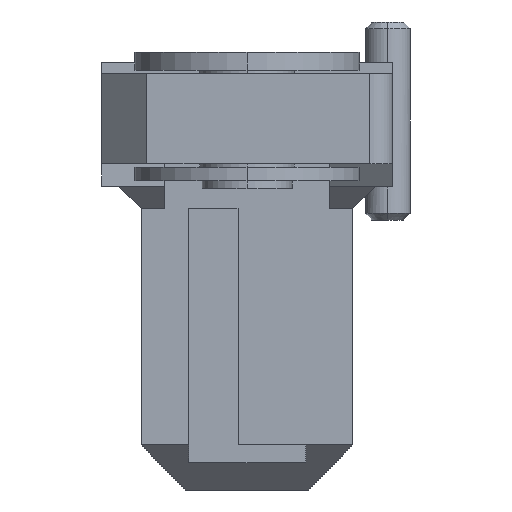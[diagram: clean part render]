
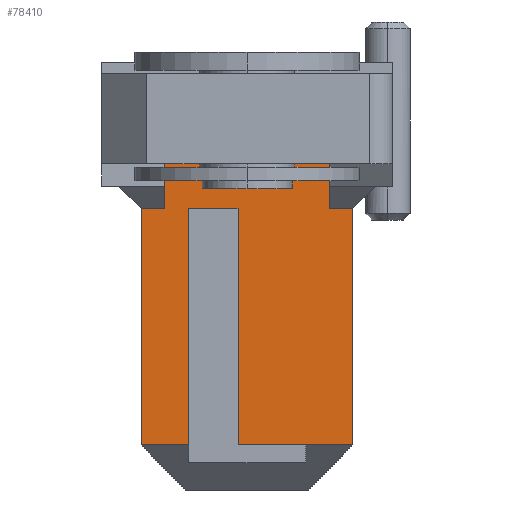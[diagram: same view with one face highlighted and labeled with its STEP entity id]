
A CAD part, left-side view. The second image highlights one B-rep face of the part: STEP entity #78410.
In plain terms, the highlighted planar face has unit normal (-1, 0, 0).
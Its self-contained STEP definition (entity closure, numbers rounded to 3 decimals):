
#77300=CARTESIAN_POINT('',(8.222,-3.386,-19.));
#77310=DIRECTION('',(-1.,0.,0.));
#77320=DIRECTION('',(0.,-1.,0.));
#77330=AXIS2_PLACEMENT_3D('',#77300,#77310,#77320);
#77340=PLANE('',#77330);
#77350=CARTESIAN_POINT('',(8.222,3.914,0.));
#77360=DIRECTION('',(0.,0.,1.));
#77370=VECTOR('',#77360,1.);
#77380=LINE('',#77350,#77370);
#77390=CARTESIAN_POINT('',(8.222,3.914,-17.));
#77400=VERTEX_POINT('',#77390);
#77410=CARTESIAN_POINT('',(8.222,3.914,
-6.5));
#77420=VERTEX_POINT('',#77410);
#77430=EDGE_CURVE('',#77400,#77420,#77380,.T.);
#77440=ORIENTED_EDGE('',*,*,#77430,.T.);
#77450=CARTESIAN_POINT('',(8.222,0.,-17.))
;
#77460=DIRECTION('',(0.,-1.,0.));
#77470=VECTOR('',#77460,1.);
#77480=LINE('',#77450,#77470);
#77490=CARTESIAN_POINT('',(8.222,6.014,-17.));
#77500=VERTEX_POINT('',#77490);
#77510=EDGE_CURVE('',#77500,#77400,#77480,.T.);
#77520=ORIENTED_EDGE('',*,*,#77510,.T.);
#77530=CARTESIAN_POINT('',(8.222,6.014,0.));
#77540=DIRECTION('',(0.,0.,1.));
#77550=VECTOR('',#77540,1.);
#77560=LINE('',#77530,#77550);
#77570=CARTESIAN_POINT('',(8.222,6.014,
-6.5));
#77580=VERTEX_POINT('',#77570);
#77590=EDGE_CURVE('',#77500,#77580,#77560,.T.);
#77600=ORIENTED_EDGE('',*,*,#77590,.F.);
#77610=CARTESIAN_POINT('',(8.222,5.989,
-6.5));
#77620=DIRECTION('',(0.,1.,0.));
#77630=VECTOR('',#77620,1.);
#77640=LINE('',#77610,#77630);
#77650=CARTESIAN_POINT('',(8.222,4.964,
-6.5));
#77660=VERTEX_POINT('',#77650);
#77670=EDGE_CURVE('',#77660,#77580,#77640,.T.);
#77680=ORIENTED_EDGE('',*,*,#77670,.T.);
#77690=CARTESIAN_POINT('',(8.222,4.964,0.));
#77700=DIRECTION('',(0.,0.,1.));
#77710=VECTOR('',#77700,1.);
#77720=LINE('',#77690,#77710);
#77730=CARTESIAN_POINT('',(8.222,4.964,-4.5));
#77740=VERTEX_POINT('',#77730);
#77750=EDGE_CURVE('',#77660,#77740,#77720,.T.);
#77760=ORIENTED_EDGE('',*,*,#77750,.F.);
#77770=CARTESIAN_POINT('',(8.222,0.,-4.5))
;
#77780=DIRECTION('',(0.,-1.,0.));
#77790=VECTOR('',#77780,1.);
#77800=LINE('',#77770,#77790);
#77810=CARTESIAN_POINT('',(8.222,-2.336,-4.5));
#77820=VERTEX_POINT('',#77810);
#77830=EDGE_CURVE('',#77740,#77820,#77800,.T.);
#77840=ORIENTED_EDGE('',*,*,#77830,.F.);
#77850=CARTESIAN_POINT('',(8.222,-2.336,0.));
#77860=DIRECTION('',(0.,0.,-1.));
#77870=VECTOR('',#77860,1.);
#77880=LINE('',#77850,#77870);
#77890=CARTESIAN_POINT('',(8.222,-2.336,
-6.5));
#77900=VERTEX_POINT('',#77890);
#77910=EDGE_CURVE('',#77820,#77900,#77880,.T.);
#77920=ORIENTED_EDGE('',*,*,#77910,.F.);
#77930=CARTESIAN_POINT('',(8.222,0.,-6.5));
#77940=DIRECTION('',(0.,-1.,0.));
#77950=VECTOR('',#77940,1.);
#77960=LINE('',#77930,#77950);
#77970=CARTESIAN_POINT('',(8.222,-3.386,
-6.5));
#77980=VERTEX_POINT('',#77970);
#77990=EDGE_CURVE('',#77900,#77980,#77960,.T.);
#78000=ORIENTED_EDGE('',*,*,#77990,.F.);
#78010=CARTESIAN_POINT('',(8.222,-3.386,0.));
#78020=DIRECTION('',(0.,0.,-1.));
#78030=VECTOR('',#78020,1.);
#78040=LINE('',#78010,#78030);
#78050=CARTESIAN_POINT('',(8.222,-3.386,-17.));
#78060=VERTEX_POINT('',#78050);
#78070=EDGE_CURVE('',#77980,#78060,#78040,.T.);
#78080=ORIENTED_EDGE('',*,*,#78070,.F.);
#78090=CARTESIAN_POINT('',(8.222,0.,-17.))
;
#78100=DIRECTION('',(0.,-1.,0.));
#78110=VECTOR('',#78100,1.);
#78120=LINE('',#78090,#78110);
#78130=CARTESIAN_POINT('',(8.222,-1.286,-17.));
#78140=VERTEX_POINT('',#78130);
#78150=EDGE_CURVE('',#78140,#78060,#78120,.T.);
#78160=ORIENTED_EDGE('',*,*,#78150,.T.);
#78170=CARTESIAN_POINT('',(8.222,0.,-17.))
;
#78180=DIRECTION('',(0.,-1.,0.));
#78190=VECTOR('',#78180,1.);
#78200=LINE('',#78170,#78190);
#78210=CARTESIAN_POINT('',(8.222,1.714,-17.));
#78220=VERTEX_POINT('',#78210);
#78230=EDGE_CURVE('',#78220,#78140,#78200,.T.);
#78240=ORIENTED_EDGE('',*,*,#78230,.T.);
#78250=CARTESIAN_POINT('',(8.222,1.714,0.));
#78260=DIRECTION('',(0.,0.,1.));
#78270=VECTOR('',#78260,1.);
#78280=LINE('',#78250,#78270);
#78290=CARTESIAN_POINT('',(8.222,1.714,
-6.5));
#78300=VERTEX_POINT('',#78290);
#78310=EDGE_CURVE('',#78220,#78300,#78280,.T.);
#78320=ORIENTED_EDGE('',*,*,#78310,.F.);
#78330=CARTESIAN_POINT('',(8.222,0.,-6.5));
#78340=DIRECTION('',(0.,1.,0.));
#78350=VECTOR('',#78340,1.);
#78360=LINE('',#78330,#78350);
#78370=EDGE_CURVE('',#78300,#77420,#78360,.T.);
#78380=ORIENTED_EDGE('',*,*,#78370,.F.);
#78390=EDGE_LOOP('',(#78380,#78320,#78240,#78160,#78080,#78000,#77920,
#77840,#77760,#77680,#77600,#77520,#77440));
#78400=FACE_OUTER_BOUND('',#78390,.T.);
#78410=ADVANCED_FACE('',(#78400),#77340,.T.);
